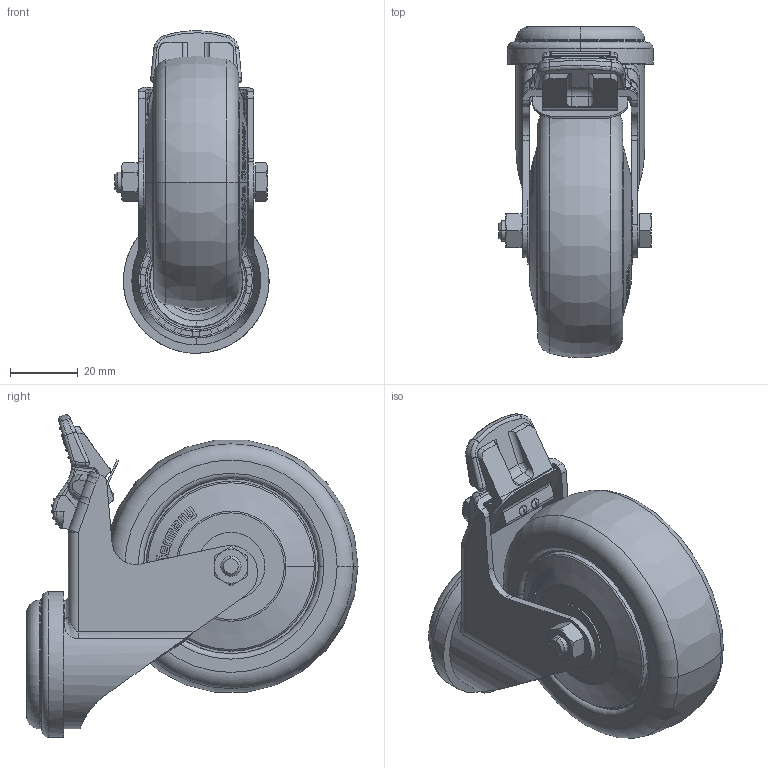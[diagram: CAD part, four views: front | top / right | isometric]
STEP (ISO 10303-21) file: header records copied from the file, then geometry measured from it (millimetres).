
FILE_DESCRIPTION (( 'STEP AP214' ), '1' );
FILE_NAME ('LRXA-TPA_75KD-FI-FK_755006-214.step', '2012-12-15T09:42:28', ( '' ), ( '' ), 'SwSTEP 2.0', 'SolidWorks 2011', '' );
FILE_SCHEMA (( 'AUTOMOTIVE_DESIGN' ));
Length unit declared in the file: millimetre
Products named in the file (5): TPA_G15_TPA_75_6KD-FK_613307; TPA-K-FK_G15_TPA_75_6KD-FK; AM_LPA_06x34_D8; GH-LRXA_075-FI_G15; LRXA-TPA_75KD-FI-FK_755006-214
Assembly tree (4 placements, depth 3):
  LRXA-TPA_75KD-FI-FK_755006-214
    TPA_G15_TPA_75_6KD-FK_613307
      TPA-K-FK_G15_TPA_75_6KD-FK
    AM_LPA_06x34_D8
    GH-LRXA_075-FI_G15
Bounding box: 45.5 x 98 x 95.22 mm (x, y, z)
Volume: 143690.4 mm3; surface area: 36346.5 mm2
Topology: 3 solids, 3 shells, 1579 faces, 4173 edges, 2695 vertices
Faces by surface type: plane 758, bspline 370, cylinder 241, cone 115, torus 70, sphere 25
Entity records: 94845 total; most frequent: CARTESIAN_POINT 43319, ORIENTED_EDGE 8306, DIRECTION 4939, EDGE_CURVE 4153, VERTEX_POINT 2689, B_SPLINE_CURVE_WITH_KNOTS 1966, LINE 1755, VECTOR 1755
